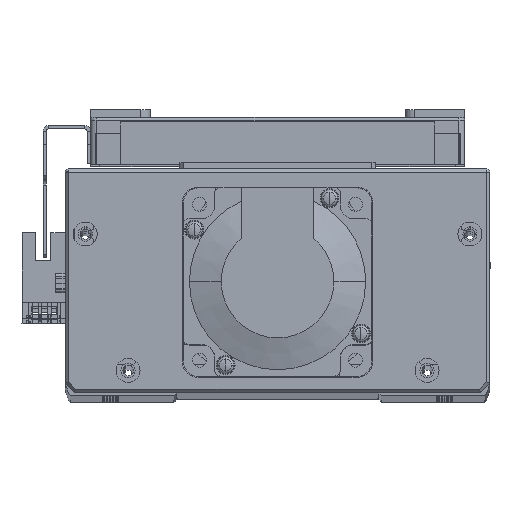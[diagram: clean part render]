
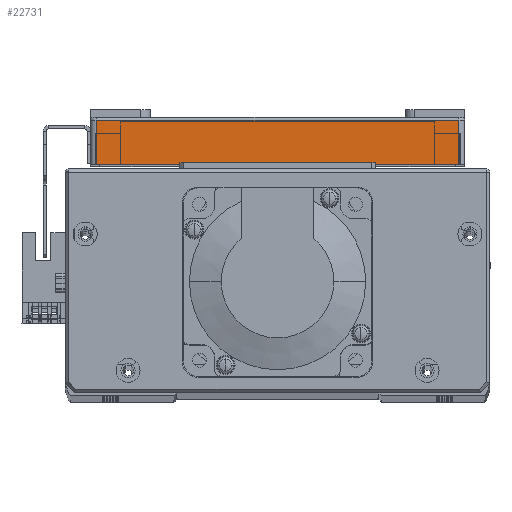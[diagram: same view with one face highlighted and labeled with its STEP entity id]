
A CAD part, top view. The second image highlights one B-rep face of the part: STEP entity #22731.
In plain terms, the highlighted planar face has unit normal (0, 0, 1) as drawn and (-1, 0, 0) by its records, which use the part's own axes.
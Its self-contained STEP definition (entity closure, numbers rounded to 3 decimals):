
#84 = LINE ( 'NONE', #52404, #131 ) ;
#131 = VECTOR ( 'NONE', #52465, 1000. ) ;
#146 = VECTOR ( 'NONE', #52605, 1000. ) ;
#180 = VECTOR ( 'NONE', #52735, 1000. ) ;
#181 = LINE ( 'NONE', #52714, #180 ) ;
#193 = LINE ( 'NONE', #52619, #146 ) ;
#7018 = VERTEX_POINT ( 'NONE', #55549 ) ;
#7031 = VERTEX_POINT ( 'NONE', #55521 ) ;
#7082 = VERTEX_POINT ( 'NONE', #55658 ) ;
#7119 = VERTEX_POINT ( 'NONE', #55682 ) ;
#11847 = EDGE_LOOP ( 'NONE', ( #24566, #24570, #24560, #24511 ) ) ;
#20226 = FACE_OUTER_BOUND ( 'NONE', #11847, .T. ) ;
#22731 = ADVANCED_FACE ( 'NONE', ( #20226 ), #52199, .F. ) ;
#24511 = ORIENTED_EDGE ( 'NONE', *, *, #46447, .T. ) ;
#24560 = ORIENTED_EDGE ( 'NONE', *, *, #46541, .T. ) ;
#24566 = ORIENTED_EDGE ( 'NONE', *, *, #46511, .T. ) ;
#24570 = ORIENTED_EDGE ( 'NONE', *, *, #46557, .T. ) ;
#32142 = AXIS2_PLACEMENT_3D ( 'NONE', #52201, #52189, #52161 ) ;
#46447 = EDGE_CURVE ( 'NONE', #7031, #7018, #58049, .T. ) ;
#46511 = EDGE_CURVE ( 'NONE', #7018, #7119, #84, .T. ) ;
#46541 = EDGE_CURVE ( 'NONE', #7082, #7031, #193, .T. ) ;
#46557 = EDGE_CURVE ( 'NONE', #7119, #7082, #181, .T. ) ;
#52161 = DIRECTION ( 'NONE',  ( 0., 0., -1. ) ) ;
#52165 = CARTESIAN_POINT ( 'NONE',  ( -95., 0., -59.5 ) ) ;
#52173 = DIRECTION ( 'NONE',  ( 0., 0., 1. ) ) ;
#52189 = DIRECTION ( 'NONE',  ( 1., 0., 0. ) ) ;
#52199 = PLANE ( 'NONE',  #32142 ) ;
#52201 = CARTESIAN_POINT ( 'NONE',  ( -95., 15., -59.5 ) ) ;
#52404 = CARTESIAN_POINT ( 'NONE',  ( -95., 15., 57.5 ) ) ;
#52465 = DIRECTION ( 'NONE',  ( 0., 1., 0. ) ) ;
#52605 = DIRECTION ( 'NONE',  ( 0., -1., 0. ) ) ;
#52619 = CARTESIAN_POINT ( 'NONE',  ( -95., 15., -57.5 ) ) ;
#52714 = CARTESIAN_POINT ( 'NONE',  ( -95., 14., -57.5 ) ) ;
#52735 = DIRECTION ( 'NONE',  ( 0., 0., -1. ) ) ;
#55521 = CARTESIAN_POINT ( 'NONE',  ( -95., 0., -57.5 ) ) ;
#55549 = CARTESIAN_POINT ( 'NONE',  ( -95., 0., 57.5 ) ) ;
#55658 = CARTESIAN_POINT ( 'NONE',  ( -95., 14., -57.5 ) ) ;
#55682 = CARTESIAN_POINT ( 'NONE',  ( -95., 14., 57.5 ) ) ;
#58049 = LINE ( 'NONE', #52165, #58066 ) ;
#58066 = VECTOR ( 'NONE', #52173, 1000. ) ;
